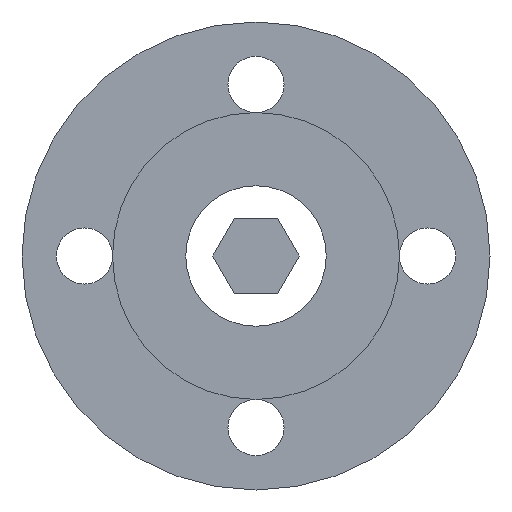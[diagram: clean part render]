
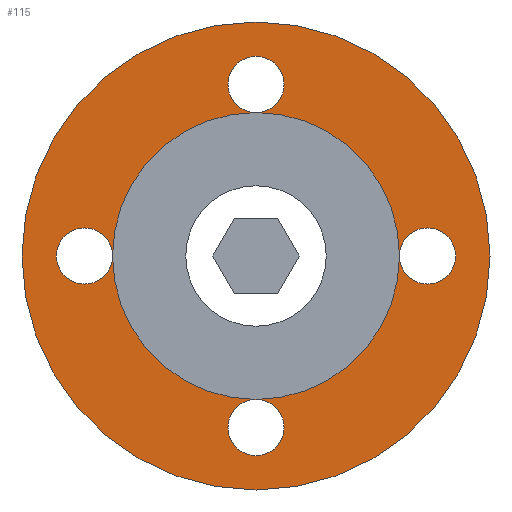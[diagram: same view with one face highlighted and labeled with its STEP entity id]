
A CAD part, front view. The second image highlights one B-rep face of the part: STEP entity #115.
In plain terms, the highlighted planar face has unit normal (0, -1, 0).
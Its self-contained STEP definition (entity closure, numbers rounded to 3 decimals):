
#115 = ADVANCED_FACE( '', ( #206, #207, #208, #209, #210, #211 ), #212, .T. );
#206 = FACE_OUTER_BOUND( '', #308, .T. );
#207 = FACE_BOUND( '', #309, .T. );
#208 = FACE_BOUND( '', #310, .T. );
#209 = FACE_BOUND( '', #311, .T. );
#210 = FACE_BOUND( '', #312, .T. );
#211 = FACE_BOUND( '', #313, .T. );
#212 = PLANE( '', #314 );
#308 = EDGE_LOOP( '', ( #414 ) );
#309 = EDGE_LOOP( '', ( #415 ) );
#310 = EDGE_LOOP( '', ( #416 ) );
#311 = EDGE_LOOP( '', ( #417 ) );
#312 = EDGE_LOOP( '', ( #418 ) );
#313 = EDGE_LOOP( '', ( #419 ) );
#314 = AXIS2_PLACEMENT_3D( '', #420, #421, #422 );
#414 = ORIENTED_EDGE( '', *, *, #562, .T. );
#415 = ORIENTED_EDGE( '', *, *, #563, .T. );
#416 = ORIENTED_EDGE( '', *, *, #559, .F. );
#417 = ORIENTED_EDGE( '', *, *, #556, .F. );
#418 = ORIENTED_EDGE( '', *, *, #564, .F. );
#419 = ORIENTED_EDGE( '', *, *, #565, .F. );
#420 = CARTESIAN_POINT( '', ( 27., 0., 0. ) );
#421 = DIRECTION( '', ( 0., -1., 0. ) );
#422 = DIRECTION( '', ( 0., 0., -1. ) );
#556 = EDGE_CURVE( '', #622, #622, #623, .T. );
#559 = EDGE_CURVE( '', #627, #627, #628, .T. );
#562 = EDGE_CURVE( '', #632, #632, #633, .T. );
#563 = EDGE_CURVE( '', #634, #634, #635, .F. );
#564 = EDGE_CURVE( '', #636, #636, #637, .T. );
#565 = EDGE_CURVE( '', #638, #638, #639, .T. );
#622 = VERTEX_POINT( '', #719 );
#623 = CIRCLE( '', #720, 9. );
#627 = VERTEX_POINT( '', #724 );
#628 = CIRCLE( '', #725, 9. );
#632 = VERTEX_POINT( '', #729 );
#633 = CIRCLE( '', #730, 75. );
#634 = VERTEX_POINT( '', #731 );
#635 = CIRCLE( '', #732, 9. );
#636 = VERTEX_POINT( '', #733 );
#637 = CIRCLE( '', #734, 9. );
#638 = VERTEX_POINT( '', #735 );
#639 = CIRCLE( '', #736, 27. );
#719 = CARTESIAN_POINT( '', ( -55., 0., -9. ) );
#720 = AXIS2_PLACEMENT_3D( '', #805, #806, #807 );
#724 = CARTESIAN_POINT( '', ( 0., 0., -64. ) );
#725 = AXIS2_PLACEMENT_3D( '', #811, #812, #813 );
#729 = CARTESIAN_POINT( '', ( 0., 0., -75. ) );
#730 = AXIS2_PLACEMENT_3D( '', #817, #818, #819 );
#731 = CARTESIAN_POINT( '', ( 55., 0., -9. ) );
#732 = AXIS2_PLACEMENT_3D( '', #820, #821, #822 );
#733 = CARTESIAN_POINT( '', ( 0., 0., 46. ) );
#734 = AXIS2_PLACEMENT_3D( '', #823, #824, #825 );
#735 = CARTESIAN_POINT( '', ( 0., 0., -27. ) );
#736 = AXIS2_PLACEMENT_3D( '', #826, #827, #828 );
#805 = CARTESIAN_POINT( '', ( -55., 0., 0. ) );
#806 = DIRECTION( '', ( 0., -1., 0. ) );
#807 = DIRECTION( '', ( 0., 0., -1. ) );
#811 = CARTESIAN_POINT( '', ( 0., 0., -55. ) );
#812 = DIRECTION( '', ( 0., -1., 0. ) );
#813 = DIRECTION( '', ( 0., 0., -1. ) );
#817 = CARTESIAN_POINT( '', ( 0., 0., 0. ) );
#818 = DIRECTION( '', ( 0., -1., 0. ) );
#819 = DIRECTION( '', ( 0., 0., -1. ) );
#820 = CARTESIAN_POINT( '', ( 55., 0., 0. ) );
#821 = DIRECTION( '', ( 0., -1., 0. ) );
#822 = DIRECTION( '', ( 0., 0., -1. ) );
#823 = CARTESIAN_POINT( '', ( 0., 0., 55. ) );
#824 = DIRECTION( '', ( 0., -1., 0. ) );
#825 = DIRECTION( '', ( 0., 0., -1. ) );
#826 = CARTESIAN_POINT( '', ( 0., 0., 0. ) );
#827 = DIRECTION( '', ( 0., -1., 0. ) );
#828 = DIRECTION( '', ( 0., 0., -1. ) );
